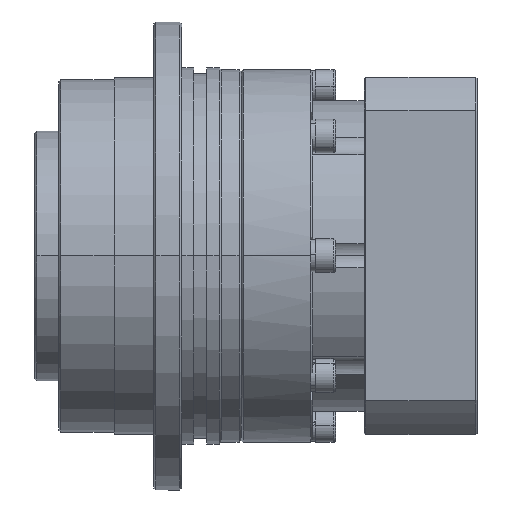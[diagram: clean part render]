
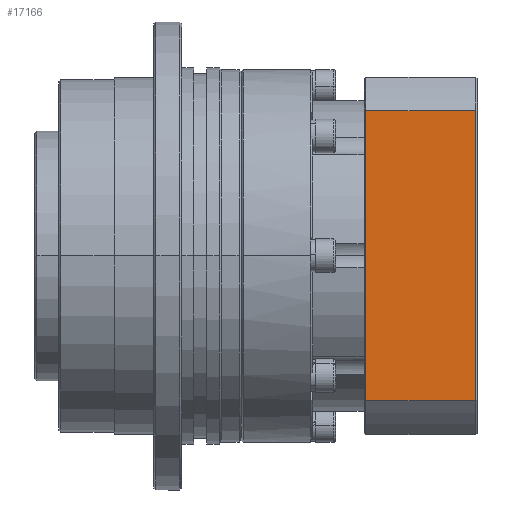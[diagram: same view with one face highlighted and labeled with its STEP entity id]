
A CAD part, top view. The second image highlights one B-rep face of the part: STEP entity #17166.
In plain terms, the highlighted planar face has unit normal (0, 0, 1).
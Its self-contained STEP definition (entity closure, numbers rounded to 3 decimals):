
#511 = VERTEX_POINT ( 'NONE', #24802 ) ;
#1256 = AXIS2_PLACEMENT_3D ( 'NONE', #19246, #13580, #12212 ) ;
#1478 = LINE ( 'NONE', #29356, #25336 ) ;
#3809 = EDGE_LOOP ( 'NONE', ( #13241, #21927, #11379, #23039 ) ) ;
#11379 = ORIENTED_EDGE ( 'NONE', *, *, #33124, .F. ) ;
#11780 = LINE ( 'NONE', #28129, #12577 ) ;
#11923 = CARTESIAN_POINT ( 'NONE',  ( 0.4, 36.592, 45. ) ) ;
#12212 = DIRECTION ( 'NONE',  ( -1., 0., 0. ) ) ;
#12577 = VECTOR ( 'NONE', #30803, 1000. ) ;
#13241 = ORIENTED_EDGE ( 'NONE', *, *, #31060, .T. ) ;
#13559 = DIRECTION ( 'NONE',  ( 0., 1., 0. ) ) ;
#13580 = DIRECTION ( 'NONE',  ( 0., 0., -1. ) ) ;
#13749 = DIRECTION ( 'NONE',  ( -1., 0., 0. ) ) ;
#16459 = EDGE_CURVE ( 'NONE', #28018, #511, #23316, .T. ) ;
#16980 = LINE ( 'NONE', #21552, #21486 ) ;
#17166 = ADVANCED_FACE ( 'NONE', ( #23163 ), #24078, .F. ) ;
#18549 = CARTESIAN_POINT ( 'NONE',  ( 28.1, 36.592, 45. ) ) ;
#19190 = VECTOR ( 'NONE', #13749, 1000. ) ;
#19246 = CARTESIAN_POINT ( 'NONE',  ( 0., -36.592, 45. ) ) ;
#21486 = VECTOR ( 'NONE', #27324, 1000. ) ;
#21552 = CARTESIAN_POINT ( 'NONE',  ( 28.1, -36.592, 45. ) ) ;
#21927 = ORIENTED_EDGE ( 'NONE', *, *, #23868, .F. ) ;
#23039 = ORIENTED_EDGE ( 'NONE', *, *, #16459, .F. ) ;
#23163 = FACE_OUTER_BOUND ( 'NONE', #3809, .T. ) ;
#23316 = LINE ( 'NONE', #27029, #19190 ) ;
#23868 = EDGE_CURVE ( 'NONE', #25455, #33211, #11780, .T. ) ;
#24078 = PLANE ( 'NONE',  #1256 ) ;
#24802 = CARTESIAN_POINT ( 'NONE',  ( 0.4, -36.592, 45. ) ) ;
#25336 = VECTOR ( 'NONE', #13559, 1000. ) ;
#25455 = VERTEX_POINT ( 'NONE', #11923 ) ;
#27029 = CARTESIAN_POINT ( 'NONE',  ( 0., -36.592, 45. ) ) ;
#27324 = DIRECTION ( 'NONE',  ( 0., 1., 0. ) ) ;
#28018 = VERTEX_POINT ( 'NONE', #33223 ) ;
#28129 = CARTESIAN_POINT ( 'NONE',  ( -17.658, 36.592, 45. ) ) ;
#29356 = CARTESIAN_POINT ( 'NONE',  ( 0.4, -36.592, 45. ) ) ;
#30803 = DIRECTION ( 'NONE',  ( 1., 0., 0. ) ) ;
#31060 = EDGE_CURVE ( 'NONE', #28018, #33211, #16980, .T. ) ;
#33124 = EDGE_CURVE ( 'NONE', #511, #25455, #1478, .T. ) ;
#33211 = VERTEX_POINT ( 'NONE', #18549 ) ;
#33223 = CARTESIAN_POINT ( 'NONE',  ( 28.1, -36.592, 45. ) ) ;
